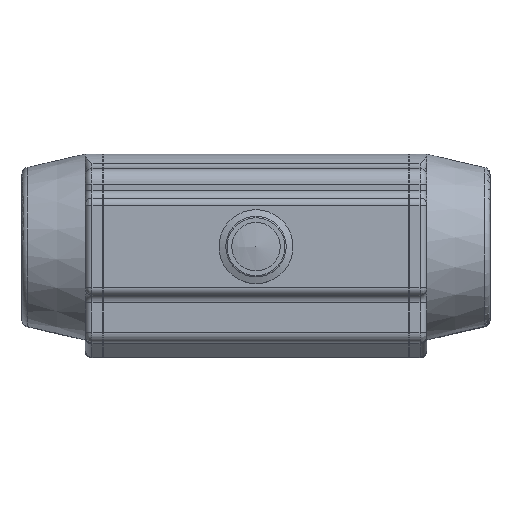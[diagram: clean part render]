
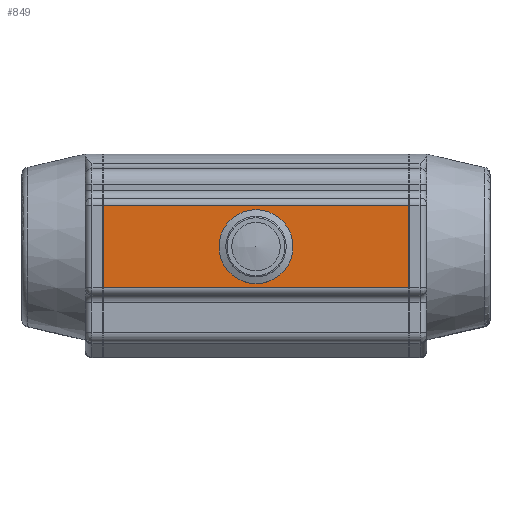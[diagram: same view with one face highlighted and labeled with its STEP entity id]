
A CAD part, top view. The second image highlights one B-rep face of the part: STEP entity #849.
In plain terms, the highlighted planar face has unit normal (0, 0, 1).
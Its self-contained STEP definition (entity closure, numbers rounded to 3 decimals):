
#849 = ADVANCED_FACE( '', ( #2069, #2070 ), #2071, .T. );
#2069 = FACE_BOUND( '', #4011, .T. );
#2070 = FACE_OUTER_BOUND( '', #4012, .T. );
#2071 = PLANE( '', #4013 );
#4011 = EDGE_LOOP( '', ( #7101 ) );
#4012 = EDGE_LOOP( '', ( #7102, #7103, #7104, #7105 ) );
#4013 = AXIS2_PLACEMENT_3D( '', #7106, #7107, #7108 );
#7101 = ORIENTED_EDGE( '', *, *, #11662, .F. );
#7102 = ORIENTED_EDGE( '', *, *, #11663, .F. );
#7103 = ORIENTED_EDGE( '', *, *, #11194, .F. );
#7104 = ORIENTED_EDGE( '', *, *, #11664, .T. );
#7105 = ORIENTED_EDGE( '', *, *, #11665, .T. );
#7106 = CARTESIAN_POINT( '', ( 113.5, -30.5, 79. ) );
#7107 = DIRECTION( '', ( 0., 0., 1. ) );
#7108 = DIRECTION( '', ( 1., 0., 0. ) );
#11194 = EDGE_CURVE( '', #13095, #13091, #13097, .T. );
#11662 = EDGE_CURVE( '', #13873, #13873, #13874, .T. );
#11663 = EDGE_CURVE( '', #13091, #13875, #13876, .T. );
#11664 = EDGE_CURVE( '', #13095, #13877, #13878, .T. );
#11665 = EDGE_CURVE( '', #13877, #13875, #13879, .T. );
#13091 = VERTEX_POINT( '', #16173 );
#13095 = VERTEX_POINT( '', #16178 );
#13097 = LINE( '', #16180, #16181 );
#13873 = VERTEX_POINT( '', #18331 );
#13874 = CIRCLE( '', #18332, 27.5 );
#13875 = VERTEX_POINT( '', #18333 );
#13876 = LINE( '', #18334, #18335 );
#13877 = VERTEX_POINT( '', #18336 );
#13878 = LINE( '', #18337, #18338 );
#13879 = LINE( '', #18339, #18340 );
#16173 = CARTESIAN_POINT( '', ( -113.5, -30.5, 79. ) );
#16178 = CARTESIAN_POINT( '', ( 113.5, -30.5, 79. ) );
#16180 = CARTESIAN_POINT( '', ( 113.5, -30.5, 79. ) );
#16181 = VECTOR( '', #22797, 1000. );
#18331 = CARTESIAN_POINT( '', ( 27.5, 0., 79. ) );
#18332 = AXIS2_PLACEMENT_3D( '', #23267, #23268, #23269 );
#18333 = CARTESIAN_POINT( '', ( -113.5, 30.5, 79. ) );
#18334 = CARTESIAN_POINT( '', ( -113.5, -30.5, 79. ) );
#18335 = VECTOR( '', #23270, 1000. );
#18336 = CARTESIAN_POINT( '', ( 113.5, 30.5, 79. ) );
#18337 = CARTESIAN_POINT( '', ( 113.5, -30.5, 79. ) );
#18338 = VECTOR( '', #23271, 1000. );
#18339 = CARTESIAN_POINT( '', ( 113.5, 30.5, 79. ) );
#18340 = VECTOR( '', #23272, 1000. );
#22797 = DIRECTION( '', ( -1., 0., 0. ) );
#23267 = CARTESIAN_POINT( '', ( 0., 0., 79. ) );
#23268 = DIRECTION( '', ( 0., 0., 1. ) );
#23269 = DIRECTION( '', ( 1., 0., 0. ) );
#23270 = DIRECTION( '', ( 0., 1., 0. ) );
#23271 = DIRECTION( '', ( 0., 1., 0. ) );
#23272 = DIRECTION( '', ( -1., 0., 0. ) );
